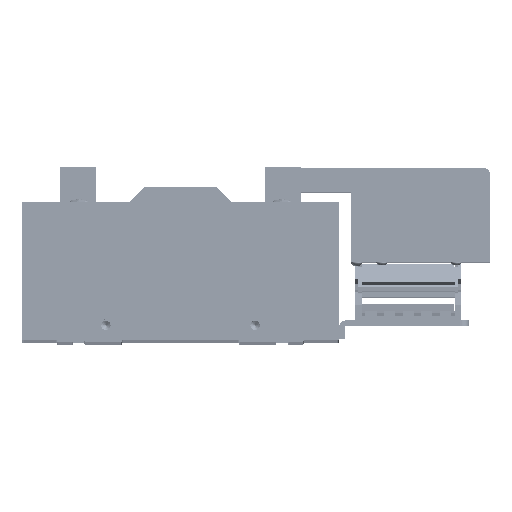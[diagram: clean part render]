
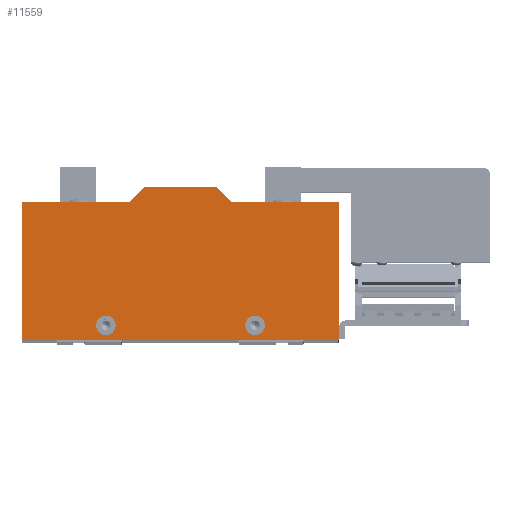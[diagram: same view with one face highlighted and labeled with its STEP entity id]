
A CAD part, top view. The second image highlights one B-rep face of the part: STEP entity #11559.
In plain terms, the highlighted planar face has unit normal (0, 0, 1).
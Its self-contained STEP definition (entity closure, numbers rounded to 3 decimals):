
#9723 = EDGE_CURVE ( 'NONE', #9973, #9725, #97632, .T. ) ;
#9725 = VERTEX_POINT ( 'NONE', #97618 ) ;
#9973 = VERTEX_POINT ( 'NONE', #99652 ) ;
#10055 = EDGE_CURVE ( 'NONE', #10273, #10232, #99699, .T. ) ;
#10171 = VERTEX_POINT ( 'NONE', #100310 ) ;
#10208 = EDGE_CURVE ( 'NONE', #10321, #10211, #100183, .T. ) ;
#10211 = VERTEX_POINT ( 'NONE', #100174 ) ;
#10232 = VERTEX_POINT ( 'NONE', #100101 ) ;
#10236 = EDGE_CURVE ( 'NONE', #10238, #10171, #100042, .T. ) ;
#10238 = VERTEX_POINT ( 'NONE', #100020 ) ;
#10273 = VERTEX_POINT ( 'NONE', #100635 ) ;
#10321 = VERTEX_POINT ( 'NONE', #100862 ) ;
#10342 = EDGE_CURVE ( 'NONE', #10232, #10479, #100765, .T. ) ;
#10390 = EDGE_CURVE ( 'NONE', #10171, #10273, #100471, .T. ) ;
#10408 = EDGE_CURVE ( 'NONE', #10479, #10547, #101073, .T. ) ;
#10479 = VERTEX_POINT ( 'NONE', #101158 ) ;
#10547 = VERTEX_POINT ( 'NONE', #101563 ) ;
#10978 = VERTEX_POINT ( 'NONE', #103754 ) ;
#11176 = EDGE_CURVE ( 'NONE', #10547, #10978, #104034, .T. ) ;
#11338 = ORIENTED_EDGE ( 'NONE', *, *, #11340, .F. ) ;
#11340 = EDGE_CURVE ( 'NONE', #9725, #9973, #104274, .T. ) ;
#11342 = ORIENTED_EDGE ( 'NONE', *, *, #9723, .F. ) ;
#11344 = EDGE_LOOP ( 'NONE', ( #11347, #11352 ) ) ;
#11347 = ORIENTED_EDGE ( 'NONE', *, *, #11348, .F. ) ;
#11348 = EDGE_CURVE ( 'NONE', #10211, #10321, #104263, .T. ) ;
#11352 = ORIENTED_EDGE ( 'NONE', *, *, #10208, .F. ) ;
#11353 = EDGE_LOOP ( 'NONE', ( #11503, #11506, #11509, #11488, #11497, #11373, #11375, #11378 ) ) ;
#11373 = ORIENTED_EDGE ( 'NONE', *, *, #11176, .T. ) ;
#11375 = ORIENTED_EDGE ( 'NONE', *, *, #11469, .T. ) ;
#11378 = ORIENTED_EDGE ( 'NONE', *, *, #11555, .T. ) ;
#11398 = EDGE_LOOP ( 'NONE', ( #11338, #11342 ) ) ;
#11443 = VERTEX_POINT ( 'NONE', #104597 ) ;
#11469 = EDGE_CURVE ( 'NONE', #10978, #11443, #104539, .T. ) ;
#11488 = ORIENTED_EDGE ( 'NONE', *, *, #10342, .T. ) ;
#11497 = ORIENTED_EDGE ( 'NONE', *, *, #10408, .T. ) ;
#11503 = ORIENTED_EDGE ( 'NONE', *, *, #10236, .T. ) ;
#11506 = ORIENTED_EDGE ( 'NONE', *, *, #10390, .T. ) ;
#11509 = ORIENTED_EDGE ( 'NONE', *, *, #10055, .T. ) ;
#11555 = EDGE_CURVE ( 'NONE', #11443, #10238, #104765, .T. ) ;
#11559 = ADVANCED_FACE ( 'NONE', ( #105001, #105000, #104999 ), #104995, .T. ) ;
#97618 = CARTESIAN_POINT ( 'NONE',  ( -34.75, -29., 9.525 ) ) ;
#97625 = DIRECTION ( 'NONE',  ( 1., 0., 0. ) ) ;
#97627 = DIRECTION ( 'NONE',  ( 0., 0., 1. ) ) ;
#97628 = CARTESIAN_POINT ( 'NONE',  ( -40., -29., 9.525 ) ) ;
#97630 = AXIS2_PLACEMENT_3D ( 'NONE', #97628, #97627, #97625 ) ;
#97632 = CIRCLE ( 'NONE', #97630, 5.25 ) ;
#99652 = CARTESIAN_POINT ( 'NONE',  ( -45.25, -29., 9.525 ) ) ;
#99694 = DIRECTION ( 'NONE',  ( 0., 1., 0. ) ) ;
#99695 = VECTOR ( 'NONE', #99694, 1000. ) ;
#99697 = CARTESIAN_POINT ( 'NONE',  ( 85., 37., 9.525 ) ) ;
#99699 = LINE ( 'NONE', #99697, #99695 ) ;
#100020 = CARTESIAN_POINT ( 'NONE',  ( -85., 37., 9.525 ) ) ;
#100022 = DIRECTION ( 'NONE',  ( 0., -1., 0. ) ) ;
#100023 = VECTOR ( 'NONE', #100022, 1000. ) ;
#100026 = CARTESIAN_POINT ( 'NONE',  ( -85., 37., 9.525 ) ) ;
#100042 = LINE ( 'NONE', #100026, #100023 ) ;
#100101 = CARTESIAN_POINT ( 'NONE',  ( 85., 37., 9.525 ) ) ;
#100174 = CARTESIAN_POINT ( 'NONE',  ( 45.25, -29., 9.525 ) ) ;
#100176 = DIRECTION ( 'NONE',  ( 1., 0., 0. ) ) ;
#100178 = DIRECTION ( 'NONE',  ( 0., 0., 1. ) ) ;
#100180 = CARTESIAN_POINT ( 'NONE',  ( 40., -29., 9.525 ) ) ;
#100181 = AXIS2_PLACEMENT_3D ( 'NONE', #100180, #100178, #100176 ) ;
#100183 = CIRCLE ( 'NONE', #100181, 5.25 ) ;
#100310 = CARTESIAN_POINT ( 'NONE',  ( -85., -37., 9.525 ) ) ;
#100468 = DIRECTION ( 'NONE',  ( 1., 0., 0. ) ) ;
#100469 = VECTOR ( 'NONE', #100468, 1000. ) ;
#100470 = CARTESIAN_POINT ( 'NONE',  ( -85., -37., 9.525 ) ) ;
#100471 = LINE ( 'NONE', #100470, #100469 ) ;
#100635 = CARTESIAN_POINT ( 'NONE',  ( 85., -37., 9.525 ) ) ;
#100761 = DIRECTION ( 'NONE',  ( -1., 0., 0. ) ) ;
#100762 = VECTOR ( 'NONE', #100761, 1000. ) ;
#100764 = CARTESIAN_POINT ( 'NONE',  ( 27.5, 37., 9.525 ) ) ;
#100765 = LINE ( 'NONE', #100764, #100762 ) ;
#100862 = CARTESIAN_POINT ( 'NONE',  ( 34.75, -29., 9.525 ) ) ;
#101060 = DIRECTION ( 'NONE',  ( -0.707, 0.707, 0. ) ) ;
#101061 = VECTOR ( 'NONE', #101060, 1000. ) ;
#101064 = CARTESIAN_POINT ( 'NONE',  ( 19.5, 45., 9.525 ) ) ;
#101073 = LINE ( 'NONE', #101064, #101061 ) ;
#101158 = CARTESIAN_POINT ( 'NONE',  ( 27.5, 37., 9.525 ) ) ;
#101563 = CARTESIAN_POINT ( 'NONE',  ( 19.5, 45., 9.525 ) ) ;
#103754 = CARTESIAN_POINT ( 'NONE',  ( -19.5, 45., 9.525 ) ) ;
#104031 = DIRECTION ( 'NONE',  ( -1., 0., 0. ) ) ;
#104032 = VECTOR ( 'NONE', #104031, 1000. ) ;
#104033 = CARTESIAN_POINT ( 'NONE',  ( -19.5, 45., 9.525 ) ) ;
#104034 = LINE ( 'NONE', #104033, #104032 ) ;
#104259 = DIRECTION ( 'NONE',  ( 1., 0., 0. ) ) ;
#104260 = DIRECTION ( 'NONE',  ( 0., 0., 1. ) ) ;
#104261 = CARTESIAN_POINT ( 'NONE',  ( 40., -29., 9.525 ) ) ;
#104262 = AXIS2_PLACEMENT_3D ( 'NONE', #104261, #104260, #104259 ) ;
#104263 = CIRCLE ( 'NONE', #104262, 5.25 ) ;
#104270 = DIRECTION ( 'NONE',  ( 1., 0., 0. ) ) ;
#104271 = DIRECTION ( 'NONE',  ( 0., 0., 1. ) ) ;
#104272 = CARTESIAN_POINT ( 'NONE',  ( -40., -29., 9.525 ) ) ;
#104273 = AXIS2_PLACEMENT_3D ( 'NONE', #104272, #104271, #104270 ) ;
#104274 = CIRCLE ( 'NONE', #104273, 5.25 ) ;
#104536 = DIRECTION ( 'NONE',  ( -0.707, -0.707, 0. ) ) ;
#104537 = VECTOR ( 'NONE', #104536, 1000. ) ;
#104538 = CARTESIAN_POINT ( 'NONE',  ( -27.5, 37., 9.525 ) ) ;
#104539 = LINE ( 'NONE', #104538, #104537 ) ;
#104597 = CARTESIAN_POINT ( 'NONE',  ( -27.5, 37., 9.525 ) ) ;
#104765 = LINE ( 'NONE', #105009, #105008 ) ;
#104988 = DIRECTION ( 'NONE',  ( 1., 0., 0. ) ) ;
#104991 = DIRECTION ( 'NONE',  ( 0., 0., 1. ) ) ;
#104993 = CARTESIAN_POINT ( 'NONE',  ( -85., 37., 9.525 ) ) ;
#104994 = AXIS2_PLACEMENT_3D ( 'NONE', #104993, #104991, #104988 ) ;
#104995 = PLANE ( 'NONE',  #104994 ) ;
#104999 = FACE_OUTER_BOUND ( 'NONE', #11353, .T. ) ;
#105000 = FACE_BOUND ( 'NONE', #11344, .T. ) ;
#105001 = FACE_BOUND ( 'NONE', #11398, .T. ) ;
#105007 = DIRECTION ( 'NONE',  ( -1., 0., 0. ) ) ;
#105008 = VECTOR ( 'NONE', #105007, 1000. ) ;
#105009 = CARTESIAN_POINT ( 'NONE',  ( -85., 37., 9.525 ) ) ;
